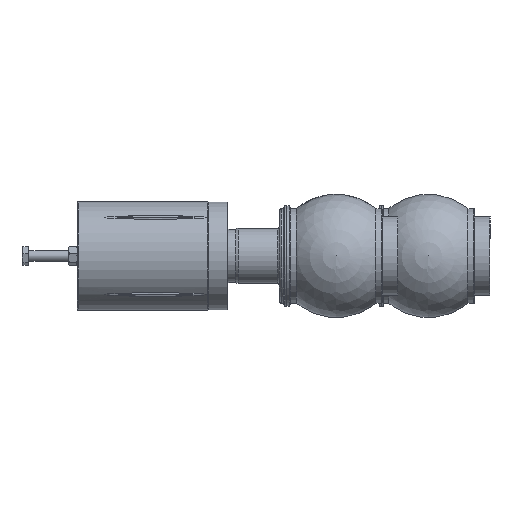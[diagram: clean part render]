
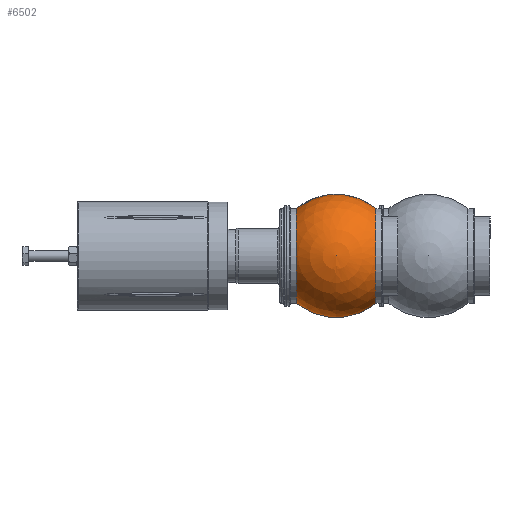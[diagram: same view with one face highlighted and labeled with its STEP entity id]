
A CAD part, left-side view. The second image highlights one B-rep face of the part: STEP entity #6502.
In plain terms, the highlighted spherical face has radius 79 mm.
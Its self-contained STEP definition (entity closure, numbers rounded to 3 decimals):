
#6342=CARTESIAN_POINT('',(0.,129.2,61.));
#6343=VERTEX_POINT('',#6342);
#6344=CARTESIAN_POINT('',(0.0,79.,61.));
#6345=DIRECTION('',(0.0,0.0,-1.0));
#6346=DIRECTION('',(0.0,-1.0,0.0));
#6347=AXIS2_PLACEMENT_3D('',#6344,#6345,#6346);
#6348=CIRCLE('',#6347,50.2);
#6349=EDGE_CURVE('',#6343,#6343,#6348,.T.);
#6465=CARTESIAN_POINT('',(-60.5,28.199,0.0));
#6466=VERTEX_POINT('',#6465);
#6467=CARTESIAN_POINT('',(0.0,28.199,0.0));
#6468=DIRECTION('',(0.0,1.0,0.0));
#6469=DIRECTION('',(-1.0,0.0,0.0));
#6470=AXIS2_PLACEMENT_3D('',#6467,#6468,#6469);
#6471=CIRCLE('',#6470,60.5);
#6472=EDGE_CURVE('',#6466,#6466,#6471,.T.);
#6480=CARTESIAN_POINT('',(0.0,79.,0.0));
#6481=DIRECTION('',(0.0,0.0,1.0));
#6482=DIRECTION('',(1.0,0.0,0.0));
#6483=AXIS2_PLACEMENT_3D('',#6480,#6481,#6482);
#6484=SPHERICAL_SURFACE('',#6483,79.);
#6485=ORIENTED_EDGE('',*,*,#6349,.T.);
#6486=EDGE_LOOP('',(#6485));
#6487=FACE_OUTER_BOUND('',#6486,.T.);
#6488=ORIENTED_EDGE('',*,*,#6472,.T.);
#6489=EDGE_LOOP('',(#6488));
#6490=FACE_BOUND('',#6489,.T.);
#6491=CARTESIAN_POINT('',(-60.5,129.801,0.0));
#6492=VERTEX_POINT('',#6491);
#6493=CARTESIAN_POINT('',(0.0,129.801,0.0));
#6494=DIRECTION('',(0.0,1.0,0.0));
#6495=DIRECTION('',(-1.0,0.0,0.0));
#6496=AXIS2_PLACEMENT_3D('',#6493,#6494,#6495);
#6497=CIRCLE('',#6496,60.5);
#6498=EDGE_CURVE('',#6492,#6492,#6497,.T.);
#6499=ORIENTED_EDGE('',*,*,#6498,.F.);
#6500=EDGE_LOOP('',(#6499));
#6501=FACE_BOUND('',#6500,.T.);
#6502=ADVANCED_FACE('',(#6487,#6490,#6501),#6484,.T.);
